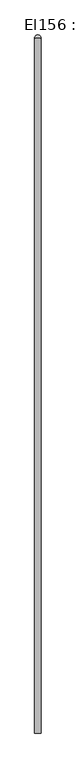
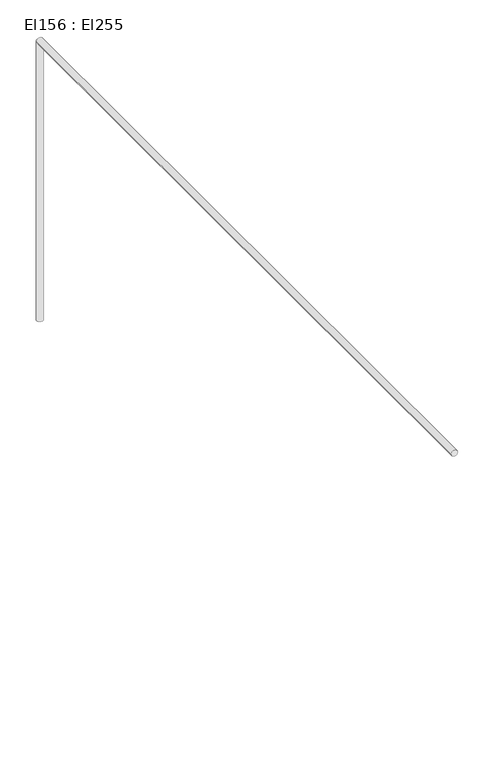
"""IFC4 building model written with IfcOpenShell, lengths in millimetres: cable carrier segment geometry, El156 : El255."""

from ifc_helpers import new_model, si_unit, point, frame, frame_2d, origin, place, context, project, spatial, circle_curve, trimmed, segment, composite_curve, outline, extrude, source, transform, mapped, element, save


def el156_el255_a31909ad(model_context):
    return source(origin(), model_context, "Body", "SweptSolid", [
        extrude(outline(composite_curve([segment(trimmed(circle_curve(frame_2d((13444.4746511, 18464.3821745)), 9.5), [point((13434.9746511, 18464.3821745))], [point((13453.9746511, 18464.3821745))], False, "CARTESIAN"), True, "CONTINUOUS"), segment(trimmed(circle_curve(frame_2d((13444.4746511, 18464.3821745)), 9.5), [point((13453.9746511, 18464.3821745))], [point((13434.9746511, 18464.3821745))], False, "CARTESIAN"), True, "CONTINUOUS")], self_intersect=False)), frame((0.0, 0.0, 1830.0), z_axis=(0.0, 0.0, 1.0), x_axis=(1.0, 0.0, 0.0)), (0.0, 0.0, 1.0), 870.0),
        extrude(outline(composite_curve([segment(trimmed(circle_curve(frame_2d((2700.0, 13444.4746511)), 9.5), [point((2700.0, 13434.9746511))], [point((2700.0, 13453.9746511))], False, "CARTESIAN"), True, "CONTINUOUS"), segment(trimmed(circle_curve(frame_2d((2700.0, 13444.4746511)), 9.5), [point((2700.0, 13453.9746511))], [point((2700.0, 13434.9746511))], False, "CARTESIAN"), True, "CONTINUOUS")], self_intersect=False)), frame((0.0, 16342.9421745, 0.0), z_axis=(0.0, 1.0, 0.0), x_axis=(0.0, 0.0, 1.0)), (0.0, 0.0, 1.0), 2121.43),
    ])


if __name__ == "__main__":
    model = new_model("IFC4")
    model_context = context("Model", 3, world=origin())
    ifc_project = project(units=[si_unit("LENGTHUNIT", "METRE", prefix="MILLI")], contexts=[model_context])
    site = spatial("IfcSite", under=ifc_project)
    building = spatial("IfcBuilding", under=site)
    placement = place(None, origin())
    el156_el255_shape = el156_el255_a31909ad(model_context)
    element("IfcCableCarrierSegment", 1, ObjectType="El156 : El255", at=placement, inside=building, context=model_context, shape_type="MappedRepresentation", body=[
        mapped(el156_el255_shape, transform((0.0, 0.0, 0.0), x_axis=(1.0, 0.0, 0.0), y_axis=(0.0, 1.0, 0.0), z_axis=(0.0, 0.0, 1.0))),
    ])
    save(model, "model.ifc")
